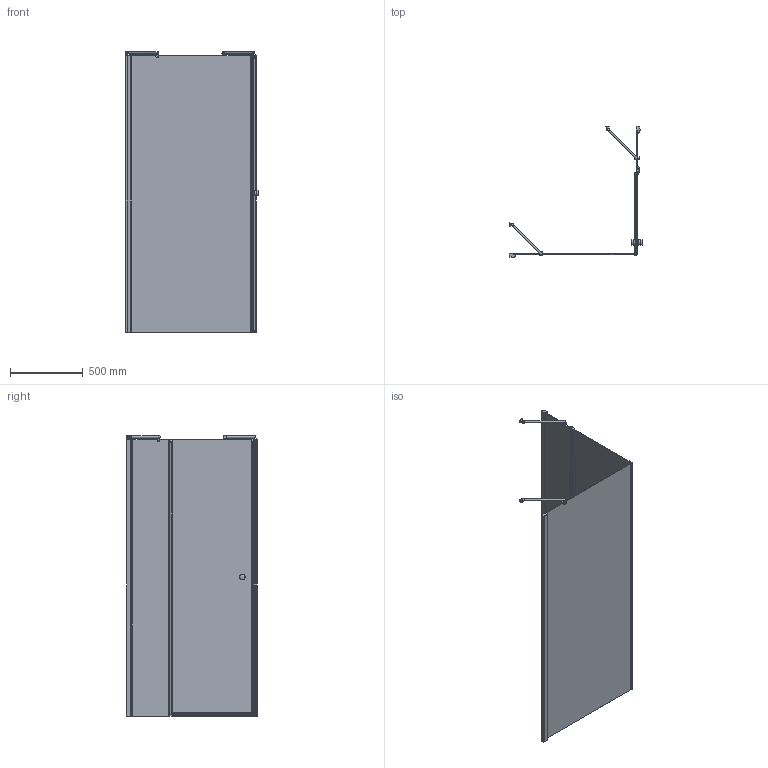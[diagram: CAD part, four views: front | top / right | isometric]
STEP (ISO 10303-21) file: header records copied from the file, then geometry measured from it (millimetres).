
FILE_DESCRIPTION(/* description */ (''),/* implementation_level */ '2;1');
FILE_NAME(/* name */ 'E:\Работа\Сергей\Душевые кабинки\! Работа\777\LUX SQUARE GK-603\LUX SQUARE GK-603 правая модель\LUX SQUARE GK-603 ПРАВАЯ-3D.stp',/* time_stamp */ '2018-04-21T17:09:06+03:00',/* author */ ('PC'),/* organization */ (''),/* preprocessor_version */ 'ST-DEVELOPER v15.2',/* originating_system */ 'Autodesk Inventor 2014',/* authorisation */ '');
FILE_SCHEMA (('AUTOMOTIVE_DESIGN { 1 0 10303 214 3 1 1 }'));
Length unit declared in the file: millimetre
Products named in the file (1): LUX SQUARE GK-603 ПРАВАЯ-3D
Bounding box: 917.22 x 898.62 x 1935.75 mm (x, y, z)
Volume: 24565997 mm3; surface area: 7315969.4 mm2
Topology: 5 solids, 5 shells, 382 faces, 1117 edges, 738 vertices
Faces by surface type: plane 223, cylinder 140, sphere 6, cone 5, torus 4, bspline 4
Full cylindrical faces by diameter (mm): 5 x1, 7.8 x1, 12 x2, 15 x2, 19 x1, 20 x4, 26 x2, 38 x4
Entity records: 13322 total; most frequent: CARTESIAN_POINT 2745, ORIENTED_EDGE 2138, DIRECTION 2120, EDGE_CURVE 1068, VERTEX_POINT 717, AXIS2_PLACEMENT_3D 716, LINE 688, VECTOR 688
